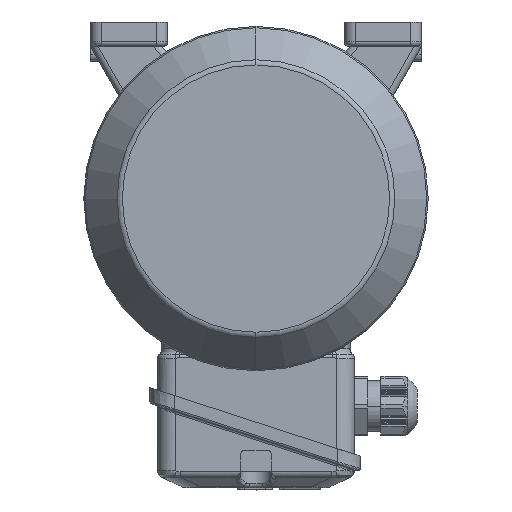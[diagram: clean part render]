
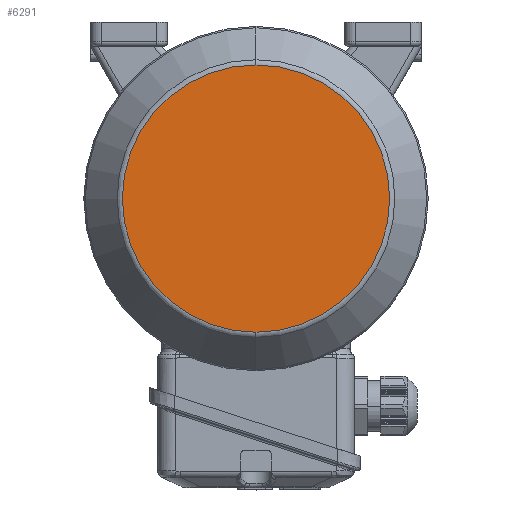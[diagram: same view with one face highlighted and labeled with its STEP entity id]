
A CAD part, left-side view. The second image highlights one B-rep face of the part: STEP entity #6291.
In plain terms, the highlighted planar face has unit normal (-1, 0, 0).
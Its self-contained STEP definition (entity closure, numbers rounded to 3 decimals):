
#4554 = CARTESIAN_POINT ( 'NONE',  ( -140.15, 0., 0. ) ) ;
#6291 = ADVANCED_FACE ( 'NONE', ( #19893 ), #26332, .T. ) ;
#9891 = VERTEX_POINT ( 'NONE', #27916 ) ;
#11179 = CARTESIAN_POINT ( 'NONE',  ( -140.15, 0., -60.537 ) ) ;
#12183 = EDGE_CURVE ( 'NONE', #33994, #9891, #17326, .T. ) ;
#14084 = DIRECTION ( 'NONE',  ( 0., 1., 0. ) ) ;
#15345 = DIRECTION ( 'NONE',  ( 1., 0., 0. ) ) ;
#15962 = ORIENTED_EDGE ( 'NONE', *, *, #31887, .F. ) ;
#17326 = CIRCLE ( 'NONE', #29857, 60.537 ) ;
#17700 = AXIS2_PLACEMENT_3D ( 'NONE', #11179, #29279, #14084 ) ;
#19893 = FACE_OUTER_BOUND ( 'NONE', #23290, .T. ) ;
#20687 = AXIS2_PLACEMENT_3D ( 'NONE', #4554, #25536, #34586 ) ;
#22677 = CIRCLE ( 'NONE', #20687, 60.537 ) ;
#23290 = EDGE_LOOP ( 'NONE', ( #15962, #34105 ) ) ;
#23475 = DIRECTION ( 'NONE',  ( 0., 0., -1. ) ) ;
#25536 = DIRECTION ( 'NONE',  ( 1., 0., 0. ) ) ;
#26332 = PLANE ( 'NONE',  #17700 ) ;
#27916 = CARTESIAN_POINT ( 'NONE',  ( -140.15, 0., -60.537 ) ) ;
#29279 = DIRECTION ( 'NONE',  ( -1., 0., 0. ) ) ;
#29624 = CARTESIAN_POINT ( 'NONE',  ( -140.15, 0., 0. ) ) ;
#29857 = AXIS2_PLACEMENT_3D ( 'NONE', #29624, #15345, #23475 ) ;
#31887 = EDGE_CURVE ( 'NONE', #9891, #33994, #22677, .T. ) ;
#33991 = CARTESIAN_POINT ( 'NONE',  ( -140.15, 0., 60.537 ) ) ;
#33994 = VERTEX_POINT ( 'NONE', #33991 ) ;
#34105 = ORIENTED_EDGE ( 'NONE', *, *, #12183, .F. ) ;
#34586 = DIRECTION ( 'NONE',  ( 0., 0., -1. ) ) ;
